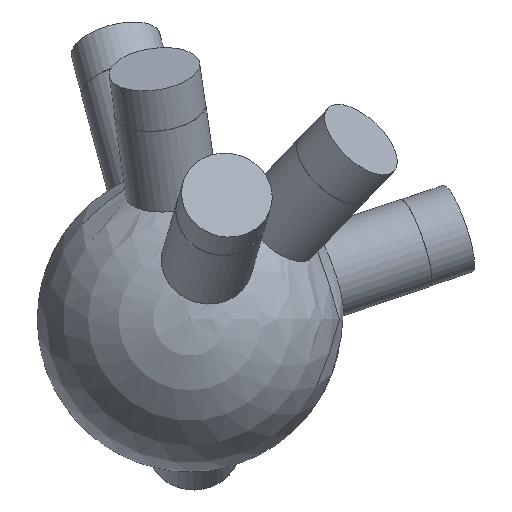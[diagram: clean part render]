
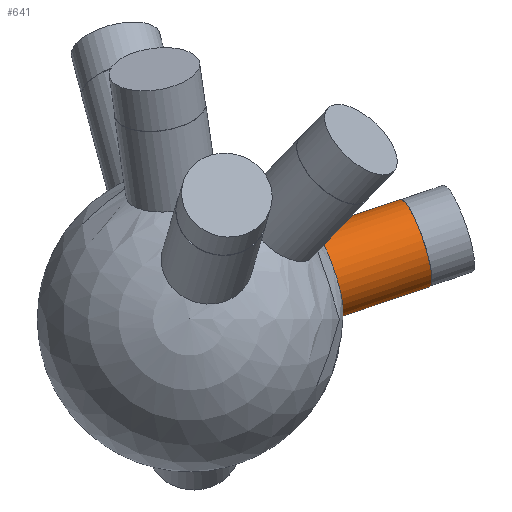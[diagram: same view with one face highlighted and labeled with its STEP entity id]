
A CAD part, top view. The second image highlights one B-rep face of the part: STEP entity #641.
In plain terms, the highlighted cylindrical face has radius 6 mm (diameter 12 mm), a full revolution.
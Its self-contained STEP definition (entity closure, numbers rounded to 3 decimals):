
#25 = EDGE_CURVE('',#26,#26,#28,.T.);
#26 = VERTEX_POINT('',#27);
#27 = CARTESIAN_POINT('',(15.815,11.692,-3.63
    ));
#28 = SURFACE_CURVE('',#29,(#34,#101),.PCURVE_S1.);
#29 = CIRCLE('',#30,6.);
#30 = AXIS2_PLACEMENT_3D('',#31,#32,#33);
#31 = CARTESIAN_POINT('',(17.74,6.01,-3.63)
  );
#32 = DIRECTION('',(0.93,0.315,-0.19));
#33 = DIRECTION('',(-0.321,0.947,0.));
#34 = PCURVE('',#35,#40);
#35 = SPHERICAL_SURFACE('',#36,20.);
#36 = AXIS2_PLACEMENT_3D('',#37,#38,#39);
#37 = CARTESIAN_POINT('',(0.,0.,0.));
#38 = DIRECTION('',(0.,0.,1.));
#39 = DIRECTION('',(1.,0.,-0.));
#40 = DEFINITIONAL_REPRESENTATION('',(#41),#100);
#41 = B_SPLINE_CURVE_WITH_KNOTS('',8,(#42,#43,#44,#45,#46,#47,#48,#49,
    #50,#51,#52,#53,#54,#55,#56,#57,#58,#59,#60,#61,#62,#63,#64,#65,#66,
    #67,#68,#69,#70,#71,#72,#73,#74,#75,#76,#77,#78,#79,#80,#81,#82,#83,
    #84,#85,#86,#87,#88,#89,#90,#91,#92,#93,#94,#95,#96,#97,#98,#99),
  .UNSPECIFIED.,.F.,.F.,(9,7,7,7,7,7,7,7,9),(0.,0.785,
    1.473,2.074,3.126,3.915,
    4.507,5.395,6.283),.UNSPECIFIED.);
#42 = CARTESIAN_POINT('',(0.637,-0.182));
#43 = CARTESIAN_POINT('',(0.635,-0.153));
#44 = CARTESIAN_POINT('',(0.63,-0.124));
#45 = CARTESIAN_POINT('',(0.622,-0.095));
#46 = CARTESIAN_POINT('',(0.611,-0.068));
#47 = CARTESIAN_POINT('',(0.597,-0.041));
#48 = CARTESIAN_POINT('',(0.581,-0.016));
#49 = CARTESIAN_POINT('',(0.562,0.006));
#50 = CARTESIAN_POINT('',(0.522,0.045));
#51 = CARTESIAN_POINT('',(0.502,0.061));
#52 = CARTESIAN_POINT('',(0.48,0.075));
#53 = CARTESIAN_POINT('',(0.457,0.087));
#54 = CARTESIAN_POINT('',(0.433,0.097));
#55 = CARTESIAN_POINT('',(0.408,0.104));
#56 = CARTESIAN_POINT('',(0.382,0.109));
#57 = CARTESIAN_POINT('',(0.334,0.114));
#58 = CARTESIAN_POINT('',(0.311,0.114));
#59 = CARTESIAN_POINT('',(0.288,0.113));
#60 = CARTESIAN_POINT('',(0.266,0.109));
#61 = CARTESIAN_POINT('',(0.243,0.104));
#62 = CARTESIAN_POINT('',(0.222,0.096));
#63 = CARTESIAN_POINT('',(0.201,0.087));
#64 = CARTESIAN_POINT('',(0.146,0.058));
#65 = CARTESIAN_POINT('',(0.114,0.034));
#66 = CARTESIAN_POINT('',(0.086,0.006));
#67 = CARTESIAN_POINT('',(0.062,-0.027));
#68 = CARTESIAN_POINT('',(0.043,-0.062));
#69 = CARTESIAN_POINT('',(0.028,-0.1));
#70 = CARTESIAN_POINT('',(0.02,-0.139));
#71 = CARTESIAN_POINT('',(0.015,-0.207));
#72 = CARTESIAN_POINT('',(0.016,-0.237));
#73 = CARTESIAN_POINT('',(0.02,-0.267));
#74 = CARTESIAN_POINT('',(0.028,-0.296));
#75 = CARTESIAN_POINT('',(0.039,-0.324));
#76 = CARTESIAN_POINT('',(0.053,-0.35));
#77 = CARTESIAN_POINT('',(0.071,-0.375));
#78 = CARTESIAN_POINT('',(0.107,-0.415));
#79 = CARTESIAN_POINT('',(0.125,-0.43));
#80 = CARTESIAN_POINT('',(0.144,-0.444));
#81 = CARTESIAN_POINT('',(0.164,-0.457));
#82 = CARTESIAN_POINT('',(0.186,-0.468));
#83 = CARTESIAN_POINT('',(0.209,-0.477));
#84 = CARTESIAN_POINT('',(0.233,-0.484));
#85 = CARTESIAN_POINT('',(0.294,-0.497));
#86 = CARTESIAN_POINT('',(0.332,-0.5));
#87 = CARTESIAN_POINT('',(0.371,-0.498));
#88 = CARTESIAN_POINT('',(0.409,-0.491));
#89 = CARTESIAN_POINT('',(0.445,-0.48));
#90 = CARTESIAN_POINT('',(0.479,-0.464));
#91 = CARTESIAN_POINT('',(0.509,-0.445));
#92 = CARTESIAN_POINT('',(0.562,-0.4));
#93 = CARTESIAN_POINT('',(0.586,-0.374));
#94 = CARTESIAN_POINT('',(0.605,-0.345));
#95 = CARTESIAN_POINT('',(0.62,-0.315));
#96 = CARTESIAN_POINT('',(0.63,-0.282));
#97 = CARTESIAN_POINT('',(0.637,-0.249));
#98 = CARTESIAN_POINT('',(0.639,-0.216));
#99 = CARTESIAN_POINT('',(0.637,-0.182));
#100 = ( GEOMETRIC_REPRESENTATION_CONTEXT(2) 
PARAMETRIC_REPRESENTATION_CONTEXT() REPRESENTATION_CONTEXT('2D SPACE',''
  ) );
#101 = PCURVE('',#102,#107);
#102 = CYLINDRICAL_SURFACE('',#103,6.);
#103 = AXIS2_PLACEMENT_3D('',#104,#105,#106);
#104 = CARTESIAN_POINT('',(0.,0.,0.));
#105 = DIRECTION('',(0.93,0.315,-0.19));
#106 = DIRECTION('',(-0.321,0.947,0.));
#107 = DEFINITIONAL_REPRESENTATION('',(#108),#112);
#108 = LINE('',#109,#110);
#109 = CARTESIAN_POINT('',(0.,19.079));
#110 = VECTOR('',#111,1.);
#111 = DIRECTION('',(1.,0.));
#112 = ( GEOMETRIC_REPRESENTATION_CONTEXT(2) 
PARAMETRIC_REPRESENTATION_CONTEXT() REPRESENTATION_CONTEXT('2D SPACE',''
  ) );
#641 = ADVANCED_FACE('',(#642),#102,.T.);
#642 = FACE_BOUND('',#643,.T.);
#643 = EDGE_LOOP('',(#644,#667,#694,#695));
#644 = ORIENTED_EDGE('',*,*,#645,.T.);
#645 = EDGE_CURVE('',#26,#646,#648,.T.);
#646 = VERTEX_POINT('',#647);
#647 = CARTESIAN_POINT('',(27.408,15.62,
    -6.002));
#648 = SEAM_CURVE('',#649,(#653,#660),.PCURVE_S1.);
#649 = LINE('',#650,#651);
#650 = CARTESIAN_POINT('',(-1.925,5.683,
    0.));
#651 = VECTOR('',#652,1.);
#652 = DIRECTION('',(0.93,0.315,-0.19));
#653 = PCURVE('',#102,#654);
#654 = DEFINITIONAL_REPRESENTATION('',(#655),#659);
#655 = LINE('',#656,#657);
#656 = CARTESIAN_POINT('',(6.283,-0.));
#657 = VECTOR('',#658,1.);
#658 = DIRECTION('',(0.,1.));
#659 = ( GEOMETRIC_REPRESENTATION_CONTEXT(2) 
PARAMETRIC_REPRESENTATION_CONTEXT() REPRESENTATION_CONTEXT('2D SPACE',''
  ) );
#660 = PCURVE('',#102,#661);
#661 = DEFINITIONAL_REPRESENTATION('',(#662),#666);
#662 = LINE('',#663,#664);
#663 = CARTESIAN_POINT('',(0.,-0.));
#664 = VECTOR('',#665,1.);
#665 = DIRECTION('',(0.,1.));
#666 = ( GEOMETRIC_REPRESENTATION_CONTEXT(2) 
PARAMETRIC_REPRESENTATION_CONTEXT() REPRESENTATION_CONTEXT('2D SPACE',''
  ) );
#667 = ORIENTED_EDGE('',*,*,#668,.F.);
#668 = EDGE_CURVE('',#646,#646,#669,.T.);
#669 = SURFACE_CURVE('',#670,(#675,#682),.PCURVE_S1.);
#670 = CIRCLE('',#671,6.);
#671 = AXIS2_PLACEMENT_3D('',#672,#673,#674);
#672 = CARTESIAN_POINT('',(29.334,9.937,
    -6.002));
#673 = DIRECTION('',(0.93,0.315,-0.19));
#674 = DIRECTION('',(-0.321,0.947,0.));
#675 = PCURVE('',#102,#676);
#676 = DEFINITIONAL_REPRESENTATION('',(#677),#681);
#677 = LINE('',#678,#679);
#678 = CARTESIAN_POINT('',(0.,31.547));
#679 = VECTOR('',#680,1.);
#680 = DIRECTION('',(1.,0.));
#681 = ( GEOMETRIC_REPRESENTATION_CONTEXT(2) 
PARAMETRIC_REPRESENTATION_CONTEXT() REPRESENTATION_CONTEXT('2D SPACE',''
  ) );
#682 = PCURVE('',#683,#688);
#683 = PLANE('',#684);
#684 = AXIS2_PLACEMENT_3D('',#685,#686,#687);
#685 = CARTESIAN_POINT('',(29.334,9.937,
    -6.002));
#686 = DIRECTION('',(0.93,0.315,-0.19));
#687 = DIRECTION('',(-0.321,0.947,0.));
#688 = DEFINITIONAL_REPRESENTATION('',(#689),#693);
#689 = CIRCLE('',#690,6.);
#690 = AXIS2_PLACEMENT_2D('',#691,#692);
#691 = CARTESIAN_POINT('',(0.,0.));
#692 = DIRECTION('',(1.,0.));
#693 = ( GEOMETRIC_REPRESENTATION_CONTEXT(2) 
PARAMETRIC_REPRESENTATION_CONTEXT() REPRESENTATION_CONTEXT('2D SPACE',''
  ) );
#694 = ORIENTED_EDGE('',*,*,#645,.F.);
#695 = ORIENTED_EDGE('',*,*,#25,.T.);
